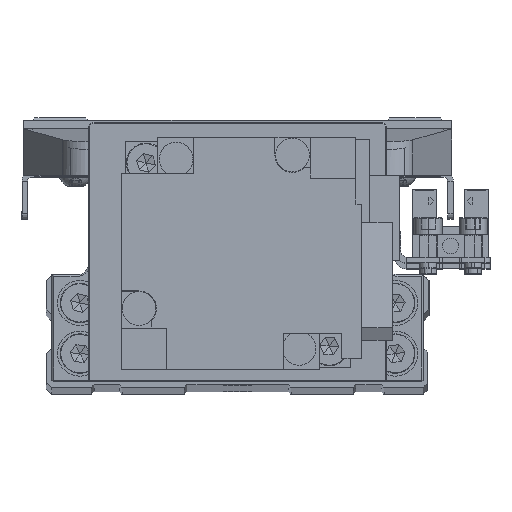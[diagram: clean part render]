
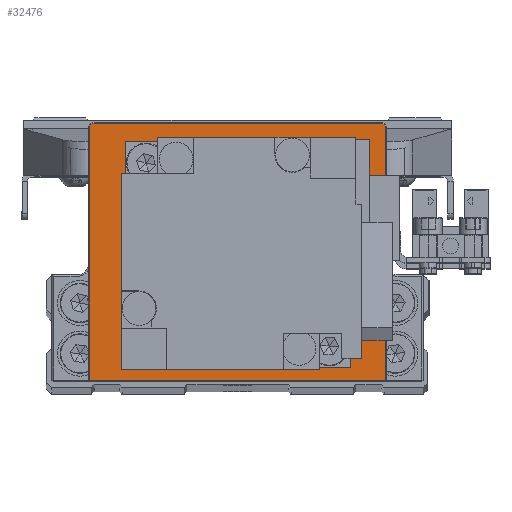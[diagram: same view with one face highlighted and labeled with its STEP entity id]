
A CAD part, top view. The second image highlights one B-rep face of the part: STEP entity #32476.
In plain terms, the highlighted planar face has unit normal (0, 0, 1) as drawn and (0, -1, 0) by its records, which use the part's own axes.
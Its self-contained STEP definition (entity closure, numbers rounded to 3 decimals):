
#154 = CARTESIAN_POINT ( 'NONE',  ( 26.3, -4., 22. ) ) ;
#1130 = DIRECTION ( 'NONE',  ( 0., -1., 0. ) ) ;
#1542 = ORIENTED_EDGE ( 'NONE', *, *, #3864, .T. ) ;
#2318 = VECTOR ( 'NONE', #18715, 1000. ) ;
#2820 = VERTEX_POINT ( 'NONE', #30427 ) ;
#2967 = VECTOR ( 'NONE', #20849, 1000. ) ;
#2968 = PLANE ( 'NONE',  #9006 ) ;
#3021 = VERTEX_POINT ( 'NONE', #31622 ) ;
#3864 = EDGE_CURVE ( 'NONE', #2820, #35321, #34174, .T. ) ;
#5014 = CARTESIAN_POINT ( 'NONE',  ( 26.3, -4., 22. ) ) ;
#5132 = ORIENTED_EDGE ( 'NONE', *, *, #29459, .T. ) ;
#5452 = DIRECTION ( 'NONE',  ( 0., -1., 0. ) ) ;
#6302 = CARTESIAN_POINT ( 'NONE',  ( 26.5, -4., -22.8 ) ) ;
#7137 = EDGE_CURVE ( 'NONE', #11979, #27850, #37232, .T. ) ;
#8422 = CARTESIAN_POINT ( 'NONE',  ( -25.5, -4., 22.8 ) ) ;
#8962 = CARTESIAN_POINT ( 'NONE',  ( 25.5, -4., 22.8 ) ) ;
#9006 = AXIS2_PLACEMENT_3D ( 'NONE', #15396, #27808, #40256 ) ;
#9056 = VECTOR ( 'NONE', #34361, 1000. ) ;
#9510 = LINE ( 'NONE', #21936, #9056 ) ;
#9538 = ORIENTED_EDGE ( 'NONE', *, *, #7137, .T. ) ;
#9973 = EDGE_CURVE ( 'NONE', #3021, #2820, #9510, .T. ) ;
#11677 = CIRCLE ( 'NONE', #34429, 0.8 ) ;
#11979 = VERTEX_POINT ( 'NONE', #5014 ) ;
#12578 = DIRECTION ( 'NONE',  ( 0., 0., 1. ) ) ;
#13570 = DIRECTION ( 'NONE',  ( 0., 0., -1. ) ) ;
#15396 = CARTESIAN_POINT ( 'NONE',  ( 0., -4., 0. ) ) ;
#16882 = CARTESIAN_POINT ( 'NONE',  ( 26.3, -4., -22.8 ) ) ;
#17039 = ORIENTED_EDGE ( 'NONE', *, *, #9973, .T. ) ;
#17872 = DIRECTION ( 'NONE',  ( 0., 0., -1. ) ) ;
#18715 = DIRECTION ( 'NONE',  ( 1., 0., 0. ) ) ;
#18743 = CARTESIAN_POINT ( 'NONE',  ( -25.5, -4., 22.8 ) ) ;
#19674 = EDGE_LOOP ( 'NONE', ( #1542, #35702, #9538, #27229, #5132, #17039 ) ) ;
#19675 = EDGE_CURVE ( 'NONE', #35321, #11979, #28052, .T. ) ;
#20546 = VECTOR ( 'NONE', #12578, 1000. ) ;
#20849 = DIRECTION ( 'NONE',  ( -1., 0., 0. ) ) ;
#21936 = CARTESIAN_POINT ( 'NONE',  ( -26.3, -4., -23. ) ) ;
#24870 = AXIS2_PLACEMENT_3D ( 'NONE', #29020, #1130, #13570 ) ;
#27229 = ORIENTED_EDGE ( 'NONE', *, *, #37954, .T. ) ;
#27808 = DIRECTION ( 'NONE',  ( 0., -1., 0. ) ) ;
#27850 = VERTEX_POINT ( 'NONE', #8962 ) ;
#28052 = LINE ( 'NONE', #154, #20546 ) ;
#29020 = CARTESIAN_POINT ( 'NONE',  ( 25.5, -4., 22. ) ) ;
#29459 = EDGE_CURVE ( 'NONE', #30333, #3021, #11677, .T. ) ;
#30333 = VERTEX_POINT ( 'NONE', #18743 ) ;
#30427 = CARTESIAN_POINT ( 'NONE',  ( -26.3, -4., -22.8 ) ) ;
#30846 = FACE_OUTER_BOUND ( 'NONE', #19674, .T. ) ;
#31622 = CARTESIAN_POINT ( 'NONE',  ( -26.3, -4., 22. ) ) ;
#32476 = ADVANCED_FACE ( 'NONE', ( #30846 ), #2968, .T. ) ;
#33339 = CARTESIAN_POINT ( 'NONE',  ( -25.5, -4., 22. ) ) ;
#34174 = LINE ( 'NONE', #6302, #2318 ) ;
#34361 = DIRECTION ( 'NONE',  ( 0., 0., -1. ) ) ;
#34429 = AXIS2_PLACEMENT_3D ( 'NONE', #33339, #5452, #17872 ) ;
#35321 = VERTEX_POINT ( 'NONE', #16882 ) ;
#35702 = ORIENTED_EDGE ( 'NONE', *, *, #19675, .T. ) ;
#36324 = LINE ( 'NONE', #8422, #2967 ) ;
#37232 = CIRCLE ( 'NONE', #24870, 0.8 ) ;
#37954 = EDGE_CURVE ( 'NONE', #27850, #30333, #36324, .T. ) ;
#40256 = DIRECTION ( 'NONE',  ( 0., 0., -1. ) ) ;
